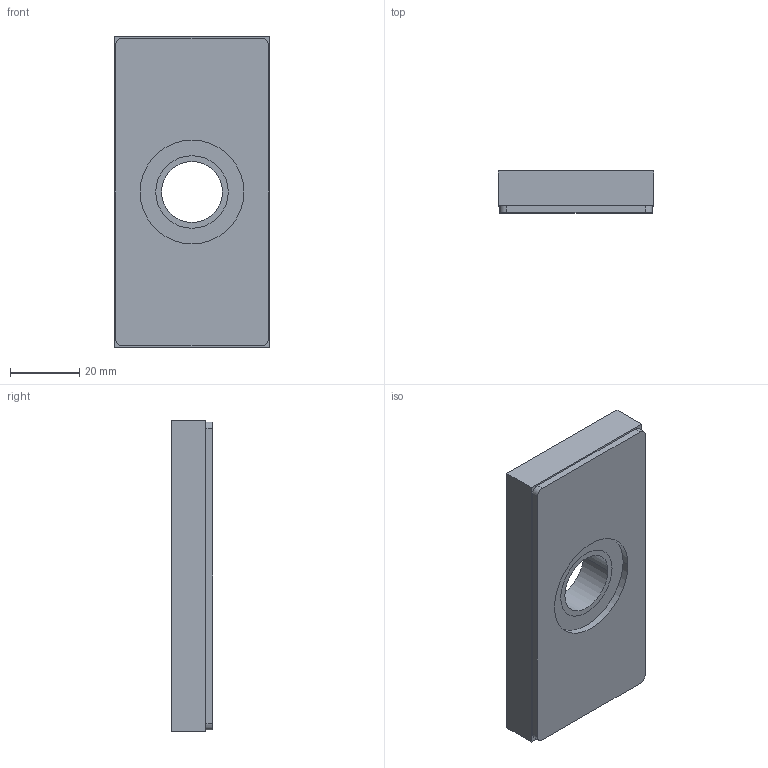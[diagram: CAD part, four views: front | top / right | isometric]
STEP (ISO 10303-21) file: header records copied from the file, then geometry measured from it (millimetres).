
FILE_DESCRIPTION((''),'2;1');
FILE_NAME('TAP045090_ASM','2002-12-27T',('Lipro doo'),('Lipro d.o.o.'),'PRO/ENGINEER BY PARAMETRIC TECHNOLOGY CORPORATION, 2001150','PRO/ENGINEER BY PARAMETRIC TECHNOLOGY CORPORATION, 2001150','');
FILE_SCHEMA(('CONFIG_CONTROL_DESIGN'));
Length unit declared in the file: millimetre
Products named in the file (3): TAP045090_1; TAP045090_2; TAP045090_ASM
Assembly tree (2 placements, depth 2):
  TAP045090_ASM
    TAP045090_1
    TAP045090_2
Bounding box: 45 x 12 x 90 mm (x, y, z)
Volume: 42784.6 mm3; surface area: 18873.5 mm2
Topology: 2 solids, 3 shells, 30 faces, 74 edges, 48 vertices
Faces by surface type: cylinder 14, plane 12, cone 4
Entity records: 1017 total; most frequent: DIRECTION 180, CARTESIAN_POINT 159, ORIENTED_EDGE 144, EDGE_CURVE 74, AXIS2_PLACEMENT_3D 69, VERTEX_POINT 48, VECTOR 42, LINE 42
